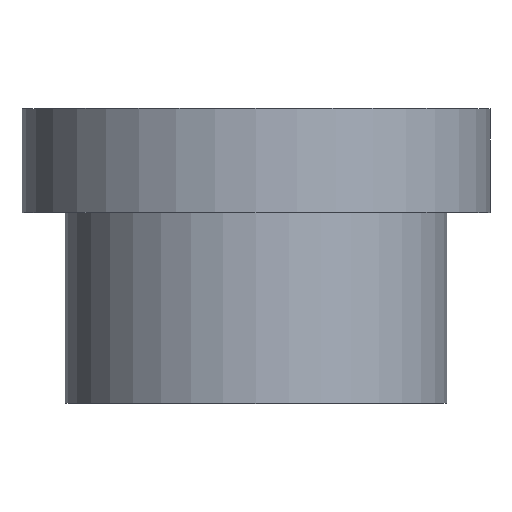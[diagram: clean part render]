
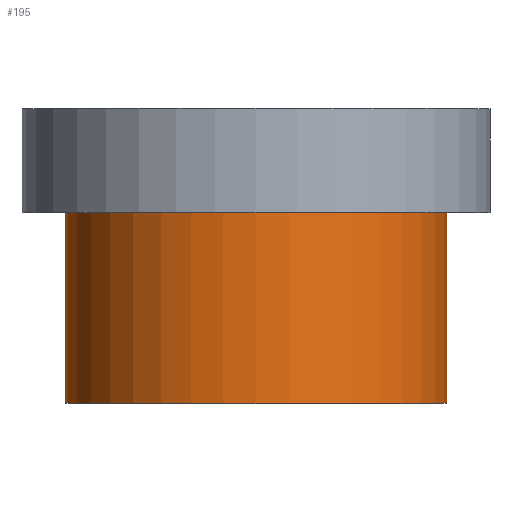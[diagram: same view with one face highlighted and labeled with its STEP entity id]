
A CAD part, top view. The second image highlights one B-rep face of the part: STEP entity #195.
In plain terms, the highlighted cylindrical face has radius 11 mm (diameter 22 mm), a full revolution.
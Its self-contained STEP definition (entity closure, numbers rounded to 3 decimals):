
#32=ORIENTED_EDGE('',*,*,#50,.T.);
#33=ORIENTED_EDGE('',*,*,#49,.F.);
#49=EDGE_CURVE('',#59,#59,#69,.T.);
#50=EDGE_CURVE('',#60,#60,#70,.T.);
#59=VERTEX_POINT('',#280);
#60=VERTEX_POINT('',#283);
#69=CIRCLE('',#213,11.);
#70=CIRCLE('',#215,11.);
#82=EDGE_LOOP('',(#32));
#83=EDGE_LOOP('',(#33));
#102=FACE_BOUND('',#82,.T.);
#103=FACE_BOUND('',#83,.T.);
#117=CYLINDRICAL_SURFACE('',#214,11.);
#195=ADVANCED_FACE('',(#102,#103),#117,.T.);
#213=AXIS2_PLACEMENT_3D('',#279,#241,#242);
#214=AXIS2_PLACEMENT_3D('',#281,#243,#244);
#215=AXIS2_PLACEMENT_3D('',#282,#245,#246);
#241=DIRECTION('',(0.,-1.,0.));
#242=DIRECTION('',(0.,0.,-1.));
#243=DIRECTION('',(0.,-1.,0.));
#244=DIRECTION('',(0.,0.,-1.));
#245=DIRECTION('',(0.,-1.,0.));
#246=DIRECTION('',(0.,0.,-1.));
#279=CARTESIAN_POINT('',(0.,0.,0.));
#280=CARTESIAN_POINT('',(0.,0.,-11.));
#281=CARTESIAN_POINT('',(0.,0.,0.));
#282=CARTESIAN_POINT('',(0.,11.,0.));
#283=CARTESIAN_POINT('',(0.,11.,-11.));
